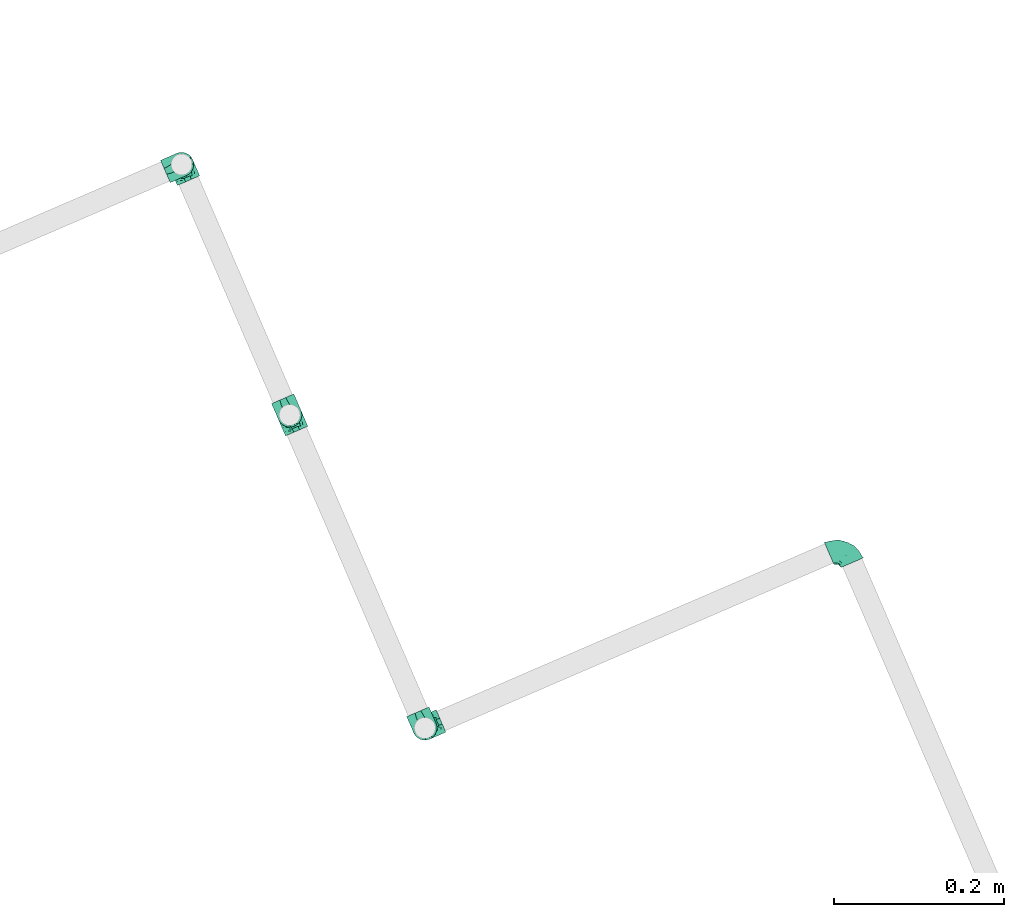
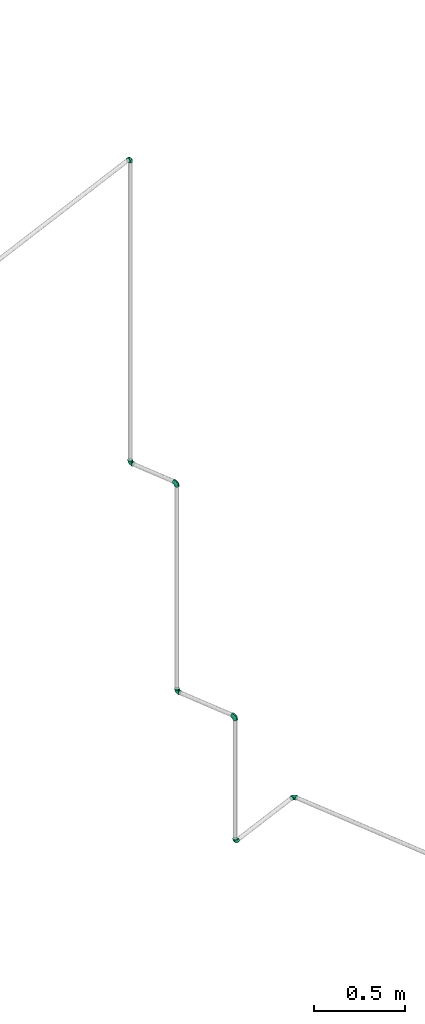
# One storey, part 19 of 26: 7 pipe fittings.
"""IFC4 building model written with IfcOpenShell, lengths in metres."""

from ifc_helpers import new_model, entity, si_unit, converted_unit, derived_unit, direction, frame, origin, place, context, subcontext, project, spatial, polygons, source, transform, mapped, material, type_object, type_shapes, element, save


model = new_model("IFC4")

# Units and contexts
model_context = context("Model", 3, precision=1e-05, world=origin(), true_north=direction((6.12323399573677e-17, 1.0)))
body_context = subcontext(model_context, "Body", "Model", "MODEL_VIEW")
ifc_project = project(units=[si_unit("LENGTHUNIT", "METRE"), si_unit("AREAUNIT", "SQUARE_METRE"), si_unit("VOLUMEUNIT", "CUBIC_METRE"), si_unit("PRESSUREUNIT", "PASCAL"), derived_unit("VOLUMETRICFLOWRATEUNIT", [(si_unit("LENGTHUNIT", "METRE", prefix="DECI"), 3), (si_unit("TIMEUNIT", "SECOND"), -1)]), converted_unit("PLANEANGLEUNIT", "DEGREE", entity("IfcPlaneAngleMeasure", 0.0174532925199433), si_unit("PLANEANGLEUNIT", "RADIAN"), dimensions=[0, 0, 0, 0, 0, 0, 0])], contexts=[model_context])

# Site, building, storey
site_placement = place(None, origin())
site = spatial("IfcSite", under=ifc_project, at=site_placement, Name="Default", CompositionType="ELEMENT")
building_placement = place(site_placement, frame((24.575451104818, -55.896759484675, 317.15), z_axis=(0.0, 0.0, 1.0), x_axis=(-0.396377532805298, 0.918087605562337, 0.0)))
building = spatial("IfcBuilding", under=site, at=building_placement, CompositionType="ELEMENT")
storey_placement = place(building_placement, origin())
storey = spatial("IfcBuildingStorey", under=building, at=storey_placement, Name="Nivel 1", CompositionType="ELEMENT", Elevation=0.0)

# Pipe fittings
ifc_material = material(Name="<Unnamed>")
pipe_fitting_type = type_object("IfcPipeFittingType", Name="M_Codo - Genérico:Norma", PredefinedType="NOTDEFINED", material=ifc_material)
shared_shape = source(origin(), body_context, "Body", "Tessellation", [
    polygons([(-0.0206374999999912, -0.0142875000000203, -1.91398743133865e-15), (-0.0206374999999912, -0.0138006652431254, 0.00369787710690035), (-0.0206374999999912, -0.0123733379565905, 0.00714374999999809), (-0.0206374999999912, -0.0101027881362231, 0.0101027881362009), (-0.0206374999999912, -0.00714375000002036, 0.0123733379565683), (-0.0206374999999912, -0.00369787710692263, 0.0138006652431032), (-0.0206374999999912, -2.03756678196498e-14, 0.0142874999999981), (-0.0206374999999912, 0.00369787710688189, 0.0138006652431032), (-0.0206374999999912, 0.00714374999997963, 0.0123733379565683), (-0.0206374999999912, 0.0101027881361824, 0.010102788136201), (-0.0206374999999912, 0.0123733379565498, 0.00714374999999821), (-0.0206374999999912, 0.0138006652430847, 0.00369787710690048), (-0.0206374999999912, 0.0142874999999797, -1.86782324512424e-15), (-0.0206374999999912, 0.0138006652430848, -0.00369787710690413), (-0.0206374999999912, 0.0123733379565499, -0.00714375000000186), (-0.0206374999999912, 0.0101027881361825, -0.0101027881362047), (-0.0206374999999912, 0.00714374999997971, -0.012373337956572), (-0.0206374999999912, 0.00369787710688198, -0.0138006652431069), (-0.0206374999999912, -2.02868388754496e-14, -0.0142875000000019), (-0.0206374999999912, -0.00369787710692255, -0.0138006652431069), (-0.0206374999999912, -0.00714375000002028, -0.0123733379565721), (-0.0206374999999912, -0.0101027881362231, -0.0101027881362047), (-0.0206374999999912, -0.0123733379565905, -0.0071437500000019), (-0.0206374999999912, -0.0138006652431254, -0.00369787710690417), (0.0142875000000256, 0.0206374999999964, -1.90764250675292e-15), (0.0138006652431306, 0.0206374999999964, -0.00369787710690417), (0.0123733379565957, 0.0206374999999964, -0.0071437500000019), (0.0101027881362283, 0.0206374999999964, -0.0101027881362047), (0.00714375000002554, 0.0206374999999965, -0.0123733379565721), (0.00369787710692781, 0.0206374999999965, -0.0138006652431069), (2.5548896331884e-14, 0.0206374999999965, -0.0142875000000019), (-0.00369787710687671, 0.0206374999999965, -0.0138006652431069), (-0.00714374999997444, 0.0206374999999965, -0.012373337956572), (-0.0101027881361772, 0.0206374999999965, -0.0101027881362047), (-0.0123733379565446, 0.0206374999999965, -0.00714375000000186), (-0.0138006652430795, 0.0206374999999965, -0.00369787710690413), (-0.0142874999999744, 0.0206374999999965, -1.78818472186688e-15), (-0.0138006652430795, 0.0206374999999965, 0.00369787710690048), (-0.0123733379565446, 0.0206374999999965, 0.00714374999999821), (-0.0101027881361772, 0.0206374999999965, 0.010102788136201), (-0.00714374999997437, 0.0206374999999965, 0.0123733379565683), (-0.00369787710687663, 0.0206374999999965, 0.0138006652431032), (2.56377252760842e-14, 0.0206374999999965, 0.0142874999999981), (0.00369787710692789, 0.0206374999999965, 0.0138006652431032), (0.00714375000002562, 0.0206374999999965, 0.0123733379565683), (0.0101027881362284, 0.0206374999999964, 0.0101027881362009), (0.0123733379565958, 0.0206374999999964, 0.00714374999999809), (0.0138006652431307, 0.0206374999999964, 0.00369787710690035), (-0.0161473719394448, 0.01614737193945, -1.77549487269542e-15), (-0.00317499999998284, -0.00960843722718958, -1.91398743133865e-15), (0.00960843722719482, 0.00317499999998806, -1.91398743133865e-15), (-0.0138157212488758, -0.0124596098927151, -1.91398743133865e-15), (0.0124596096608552, 0.0138157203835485, -1.91398743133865e-15), (0.000176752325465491, -0.000818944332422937, 0.0108840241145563), (-0.00773273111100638, 0.00773273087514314, 0.0140866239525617), (0.00793781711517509, 0.00822334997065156, 0.00966985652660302), (0.00135010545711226, 0.00899688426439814, 0.0136434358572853), (-0.00888619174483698, -0.0104628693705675, 0.00671916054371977), (-0.0129621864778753, 0.0129621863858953, 0.0104127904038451), (-0.00929774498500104, -0.00143592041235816, 0.0136628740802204), (-0.00532051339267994, 0.0141803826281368, 0.0137117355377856), (-0.0141803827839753, 0.00532051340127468, 0.0137117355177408), (0.0112946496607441, 0.0130720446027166, 0.00747085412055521), (0.00577425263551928, 0.013206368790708, 0.0125656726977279), (-0.0132433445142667, -0.00888564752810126, 0.0103991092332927), (-0.0140702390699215, 0.0159826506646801, 0.00675856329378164), (-0.0143000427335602, -0.0130452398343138, 0.00426440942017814), (0.0095400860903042, 0.00509019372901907, 0.00519492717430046), (0.00321671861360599, -0.00321671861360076, -1.91398743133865e-15), (-0.00515392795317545, -0.00641805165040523, 0.00965090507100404), (0.00222330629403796, -0.00400373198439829, 0.00598159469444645), (-0.00854677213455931, 0.0161311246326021, 0.0120130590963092), (-0.00142828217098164, 0.0152665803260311, 0.0142707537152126), (-0.0152665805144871, 0.00142828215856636, 0.014270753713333), (-0.0161311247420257, 0.00854677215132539, 0.0120130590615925), (0.0131091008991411, 0.0148489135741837, 0.00437255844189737), (0.00899826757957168, 0.0147314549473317, 0.0105988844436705), (-0.0147956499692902, -0.00588207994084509, 0.0127141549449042), (0.00233466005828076, 0.0151927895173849, 0.0139751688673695), (-0.0150725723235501, -0.0114859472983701, 0.00780933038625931), (-0.0153188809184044, -0.00233800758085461, 0.0139805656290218), (0.011034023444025, 0.00849536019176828, -1.91398743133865e-15), (-0.0113819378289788, 0.0168959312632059, 0.00951940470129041), (-0.0168959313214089, 0.0113819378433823, 0.00951940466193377), (-0.0170650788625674, 0.0134736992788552, 0.00667503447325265), (-0.0162112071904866, 0.0154334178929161, 0.00367932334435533), (-0.00849536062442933, -0.0110340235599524, -1.91398743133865e-15), (-0.00647811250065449, -0.0108815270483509, 0.00323735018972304), (-0.00100845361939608, -0.00772137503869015, 0.00350069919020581), (-0.00886885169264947, 0.0115328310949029, 0.0130758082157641), (-0.00347635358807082, 0.010181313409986, 0.0142772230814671), (-0.00486327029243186, 0.00380489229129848, 0.0140791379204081), (-0.0101813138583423, 0.00347635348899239, 0.0142772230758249), (0.00574400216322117, 0.00158139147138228, 0.00789717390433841), (0.00646368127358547, -0.00034497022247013, 0.00426218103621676), (-0.01133973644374, 0.00817371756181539, 0.0133509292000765), (-0.0119462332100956, 0.0108177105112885, 0.01214592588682), (-0.0104397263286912, 0.0136564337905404, 0.0116442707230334), (0.00426857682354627, 0.00406076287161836, 0.0108628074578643), (0.000366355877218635, 0.00349920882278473, 0.0127379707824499), (-0.0039339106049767, -0.000686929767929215, 0.0127486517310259), (-0.00794317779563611, -0.00460237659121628, 0.0120890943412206), (0.0117560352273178, 0.00970031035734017, 0.00452322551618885), (0.0107595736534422, 0.00586367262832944, 0.00252945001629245), (0.0086810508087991, 0.00209392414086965, 0.00257710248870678), (0.00641257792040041, -2.08593068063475e-05, -1.91398743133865e-15), (-0.00237913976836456, -0.00707429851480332, 0.00683135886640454), (-0.000140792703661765, -0.00388038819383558, 0.00871805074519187), (0.00277830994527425, -0.000643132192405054, 0.00911324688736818), (-0.0054208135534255, 0.0206374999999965, 0.0130870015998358), (-0.00418568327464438, 0.0173312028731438, 0.0137571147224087), (-0.0206374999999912, 0.00542081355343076, 0.0130870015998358), (-0.0173312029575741, 0.00418568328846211, 0.0137571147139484), (0.00987593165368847, 0.00850514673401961, 0.00743684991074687), (0.00793102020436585, 0.00512352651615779, 0.00794965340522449), (-0.0088104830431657, -0.00877836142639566, 0.00903634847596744), (0.000239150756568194, 0.0122734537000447, 0.0141669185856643), (-0.0143001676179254, 0.017568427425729, 0.00439068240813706), (-0.0103785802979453, -0.0119235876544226, 0.00467362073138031), (2.08593068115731e-05, -0.00641257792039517, -1.91398743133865e-15), (0.00279281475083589, -0.00483309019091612, 0.00299181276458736), (-0.00194016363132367, 0.00726127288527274, 0.0140925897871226), (0.00572154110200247, 0.0085814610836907, 0.0115951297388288), (-0.003650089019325, -0.00355714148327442, 0.0111567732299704), (-0.00193934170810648, 0.00193934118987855, -0.0130547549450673), (-0.0105392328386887, 0.0105392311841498, -0.0127956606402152), (0.00743074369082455, 0.00658692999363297, -0.00940990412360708), (-0.00658692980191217, -0.00743074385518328, -0.00940990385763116), (-0.010680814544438, 0.00217692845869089, -0.0142835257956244), (-0.00217692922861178, 0.0106808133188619, -0.0142835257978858), (-0.0147948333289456, 0.0147948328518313, -0.00714135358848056), (0.00568780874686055, 0.0124319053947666, -0.0124904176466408), (0.0111958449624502, 0.0123663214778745, -0.00734851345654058), (-0.0124319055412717, -0.0056878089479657, -0.0124904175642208), (-0.0123663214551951, -0.0111958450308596, -0.00734851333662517), (-0.0148108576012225, 0.00522571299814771, -0.0136681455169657), (-0.00522571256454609, 0.014810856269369, -0.0136681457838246), (-0.0115374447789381, 0.0162108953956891, -0.00966984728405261), (-0.0162108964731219, 0.0115374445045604, -0.00966984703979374), (0.00898405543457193, 0.0144717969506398, -0.0105644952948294), (0.0023205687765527, 0.0148125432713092, -0.0139585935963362), (0.00171503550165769, 0.00789920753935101, -0.0133501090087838), (0.0130906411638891, 0.0146814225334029, -0.00433964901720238), (0.0107681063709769, 0.00675874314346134, -0.00406143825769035), (0.00684414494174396, -4.76310165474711e-06, -0.00394110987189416), (0.00017428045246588, -0.00614059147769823, -0.00527756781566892), (-0.01447179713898, -0.00898405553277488, -0.0105644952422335), (-0.0148125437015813, -0.00232056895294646, -0.0139585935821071), (-0.00789920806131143, -0.00171503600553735, -0.0133501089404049), (-0.0146814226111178, -0.0130906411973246, -0.00433964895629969), (-0.00675874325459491, -0.0107681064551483, -0.00406143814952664), (-0.00852331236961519, 0.0163139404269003, -0.0119868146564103), (-0.0163139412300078, 0.00852331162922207, -0.0119868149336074), (0.0030859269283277, 0.00336815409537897, -0.0113287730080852), (-0.00145328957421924, -0.00264997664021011, -0.0106409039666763), (0.00445745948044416, 3.67635219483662e-05, -0.00801127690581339), (-0.0160399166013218, 0.00140287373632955, -0.0142615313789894), (-0.00140287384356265, 0.0160399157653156, -0.0142615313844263), (-0.00941182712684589, 0.00664976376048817, -0.0140296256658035), (-0.00508542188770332, 0.00508542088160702, -0.014222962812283), (-0.00699597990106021, 0.0105280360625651, -0.0138112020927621), (-0.0178443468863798, 0.0133830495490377, -0.00621711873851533), (-0.0161315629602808, 0.0154961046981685, -0.00369654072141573), (-0.0133830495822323, 0.0178443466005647, -0.00621711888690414), (-0.014368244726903, 0.0177468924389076, -0.00393847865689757), (-0.00678207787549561, -0.00466398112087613, -0.0116935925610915), (-0.00405092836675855, -0.00160148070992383, -0.01239521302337), (0.00586952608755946, 0.0171604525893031, -0.0129214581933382), (0.0115473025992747, 0.0171053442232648, -0.00814200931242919), (-0.0171604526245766, -0.00586952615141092, -0.0129214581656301), (-0.0171053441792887, -0.0115473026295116, -0.00814200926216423), (-0.0135396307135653, 0.0135396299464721, -0.00958025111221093), (-0.0110613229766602, 0.0133918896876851, -0.0113873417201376), (-0.013526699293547, 0.0108398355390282, -0.0114607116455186), (0.0120035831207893, 0.0108741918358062, -0.00486842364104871), (0.00964941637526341, 0.00734879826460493, -0.00703328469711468), (0.00737425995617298, 0.0033840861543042, -0.00733418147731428), (0.00917153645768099, 0.00296427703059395, -0.0027679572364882), (0.00367169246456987, -0.00389665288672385, -0.00330356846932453), (-0.00170307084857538, -0.00837123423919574, -0.00283309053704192), (-0.00377971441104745, -0.00866361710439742, -0.00554655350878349), (-0.00788333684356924, -0.0100707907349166, -0.00670951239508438), (0.00320463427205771, -0.00299787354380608, -0.00606891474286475), (-0.000344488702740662, -0.00456946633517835, -0.00816734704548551), (-0.0102215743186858, -0.0123932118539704, -0.00286852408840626), (-0.0129951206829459, 0.00787480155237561, -0.0130742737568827), (0.00446733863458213, 0.00775313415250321, -0.0121106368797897), (-0.00510169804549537, 0.00845793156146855, -0.0142593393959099)], [[[18, 19, 20, 21, 22, 23, 24, 1, 2, 3, 4, 5, 6, 7, 8, 112, 9, 10, 11, 12, 13, 14, 15, 16, 17]], [[29, 30, 31, 32, 33, 34, 35, 36, 37, 38, 39, 40, 41, 110, 42, 43, 44, 45, 46, 47, 48, 25, 26, 27, 28]], [[43, 73, 79]], [[119, 87, 88]], [[52, 67, 2]], [[76, 47, 63]], [[80, 4, 3]], [[2, 67, 3]], [[70, 107, 108]], [[4, 80, 65]], [[65, 78, 5]], [[2, 1, 52]], [[62, 93, 96]], [[9, 112, 8, 113]], [[66, 83, 39]], [[81, 7, 6]], [[99, 54, 109]], [[124, 102, 70]], [[10, 84, 11]], [[41, 40, 72]], [[84, 59, 85]], [[9, 75, 10]], [[61, 72, 90]], [[86, 13, 12]], [[91, 55, 92]], [[5, 4, 65]], [[77, 114, 63]], [[45, 44, 64]], [[64, 44, 79]], [[113, 75, 9]], [[43, 42, 73]], [[103, 76, 63]], [[25, 48, 53]], [[42, 111, 73]], [[63, 46, 77]], [[71, 89, 121]], [[63, 47, 46]], [[62, 74, 93]], [[54, 99, 100]], [[64, 123, 77]], [[85, 86, 12]], [[61, 91, 73]], [[86, 118, 49]], [[57, 100, 123]], [[59, 83, 66]], [[8, 7, 74]], [[39, 83, 40]], [[5, 78, 6]], [[39, 38, 118]], [[49, 118, 37]], [[111, 42, 110, 41]], [[72, 111, 41]], [[65, 80, 116]], [[84, 85, 11]], [[45, 77, 46]], [[87, 50, 88]], [[47, 76, 48]], [[67, 119, 80]], [[109, 54, 108]], [[51, 104, 105]], [[115, 68, 114]], [[107, 88, 89]], [[101, 102, 124]], [[88, 107, 58]], [[94, 95, 68]], [[83, 72, 40]], [[61, 90, 55]], [[91, 61, 55]], [[43, 79, 44]], [[81, 74, 7]], [[60, 92, 93]], [[96, 55, 90]], [[75, 97, 84]], [[103, 104, 82]], [[53, 48, 76]], [[64, 77, 45]], [[77, 56, 114]], [[65, 116, 102]], [[81, 78, 60]], [[73, 117, 79]], [[64, 79, 57]], [[67, 80, 3]], [[80, 58, 116]], [[78, 81, 6]], [[74, 81, 60]], [[114, 103, 63]], [[82, 53, 76]], [[83, 59, 98]], [[75, 84, 10]], [[85, 59, 66]], [[86, 85, 66]], [[12, 11, 85]], [[118, 86, 66]], [[86, 49, 13]], [[67, 52, 87]], [[89, 88, 50]], [[119, 88, 58]], [[89, 50, 120]], [[89, 71, 107]], [[59, 97, 98]], [[97, 75, 96]], [[93, 55, 96]], [[91, 122, 117]], [[100, 101, 54]], [[122, 91, 92]], [[60, 93, 74]], [[92, 55, 93]], [[115, 99, 94]], [[95, 94, 71]], [[121, 95, 71]], [[95, 106, 105]], [[97, 96, 90]], [[75, 62, 96]], [[98, 90, 72]], [[97, 59, 84]], [[90, 98, 97]], [[83, 98, 72]], [[123, 99, 56]], [[99, 123, 100]], [[122, 100, 57]], [[101, 92, 60]], [[92, 101, 100]], [[101, 60, 102]], [[60, 78, 102]], [[65, 102, 78]], [[104, 103, 68]], [[82, 76, 103]], [[105, 68, 95]], [[82, 104, 51]], [[68, 105, 104]], [[108, 107, 71]], [[106, 95, 69]], [[106, 51, 105]], [[107, 70, 116]], [[109, 71, 94]], [[108, 54, 124]], [[71, 109, 108]], [[99, 109, 94]], [[111, 72, 61]], [[61, 73, 111]], [[113, 74, 62]], [[74, 113, 8]], [[113, 62, 75]], [[115, 114, 56]], [[103, 114, 68]], [[99, 115, 56]], [[68, 115, 94]], [[107, 116, 58]], [[102, 116, 70]], [[91, 117, 73]], [[57, 79, 117]], [[39, 118, 66]], [[37, 118, 38]], [[80, 119, 58]], [[87, 119, 67]], [[120, 121, 89]], [[121, 120, 69]], [[95, 121, 69]], [[100, 122, 92]], [[117, 122, 57]], [[77, 123, 56]], [[57, 123, 64]], [[108, 124, 70]], [[101, 124, 54]], [[166, 134, 149]], [[185, 52, 150]], [[129, 157, 136]], [[157, 19, 18]], [[163, 131, 162]], [[178, 51, 106]], [[162, 139, 15]], [[23, 171, 150]], [[16, 15, 139]], [[156, 183, 184]], [[129, 136, 159]], [[17, 16, 153]], [[52, 1, 24]], [[153, 16, 139]], [[148, 20, 19]], [[22, 171, 23]], [[135, 147, 128]], [[32, 137, 33]], [[21, 147, 22]], [[170, 21, 20]], [[147, 21, 170]], [[35, 34, 138]], [[30, 141, 31]], [[134, 148, 149]], [[13, 49, 163]], [[34, 33, 152]], [[36, 165, 37]], [[23, 150, 24]], [[159, 160, 129]], [[162, 15, 14]], [[152, 138, 34]], [[28, 140, 29]], [[32, 31, 158]], [[26, 25, 53]], [[32, 158, 137]], [[131, 164, 138]], [[142, 154, 125]], [[168, 141, 30]], [[134, 170, 148]], [[169, 28, 27]], [[142, 130, 141]], [[168, 140, 132]], [[136, 18, 17]], [[168, 30, 29]], [[169, 143, 133]], [[154, 142, 187]], [[133, 143, 175]], [[87, 151, 50]], [[175, 82, 144]], [[132, 140, 127]], [[36, 35, 164]], [[143, 27, 26]], [[130, 160, 188]], [[36, 164, 165]], [[173, 152, 126]], [[136, 186, 159]], [[174, 172, 173]], [[172, 139, 131]], [[153, 186, 136]], [[169, 140, 28]], [[140, 133, 176]], [[142, 141, 132]], [[158, 141, 130]], [[187, 127, 154]], [[142, 125, 160]], [[26, 53, 143]], [[143, 53, 82]], [[82, 51, 144]], [[144, 51, 178]], [[133, 175, 176]], [[185, 135, 151]], [[145, 106, 179]], [[156, 127, 177]], [[180, 179, 120]], [[155, 125, 154]], [[128, 147, 134]], [[171, 147, 135]], [[157, 148, 19]], [[129, 160, 149]], [[129, 149, 148]], [[167, 166, 149]], [[87, 185, 151]], [[52, 24, 150]], [[146, 180, 181]], [[151, 182, 181]], [[50, 151, 180]], [[33, 137, 152]], [[152, 137, 161]], [[139, 172, 174]], [[136, 17, 153]], [[176, 177, 127]], [[184, 128, 155]], [[154, 127, 156]], [[166, 128, 134]], [[145, 179, 183]], [[155, 154, 156]], [[136, 157, 18]], [[148, 157, 129]], [[141, 158, 31]], [[137, 158, 130]], [[161, 159, 126]], [[161, 188, 159]], [[142, 160, 130]], [[149, 160, 125]], [[152, 161, 126]], [[188, 137, 130]], [[14, 13, 163]], [[139, 162, 131]], [[14, 163, 162]], [[49, 37, 165]], [[138, 164, 35]], [[165, 131, 163]], [[131, 165, 164]], [[165, 163, 49]], [[167, 149, 125]], [[155, 128, 166]], [[125, 155, 167]], [[155, 166, 167]], [[140, 168, 29]], [[141, 168, 132]], [[143, 169, 27]], [[140, 169, 133]], [[148, 170, 20]], [[147, 170, 134]], [[147, 171, 22]], [[150, 171, 135]], [[131, 138, 172]], [[173, 172, 138]], [[152, 173, 138]], [[173, 126, 174]], [[186, 174, 126]], [[153, 139, 174]], [[82, 175, 143]], [[176, 175, 144]], [[144, 178, 177]], [[140, 176, 127]], [[144, 177, 176]], [[145, 156, 177]], [[178, 106, 145]], [[177, 178, 145]], [[50, 180, 120]], [[179, 106, 69, 120]], [[183, 179, 146]], [[146, 179, 180]], [[181, 180, 151]], [[182, 151, 135]], [[184, 181, 128]], [[135, 128, 182]], [[128, 181, 182]], [[184, 183, 146]], [[145, 183, 156]], [[184, 146, 181]], [[156, 184, 155]], [[52, 185, 87]], [[135, 185, 150]], [[174, 186, 153]], [[159, 186, 126]], [[142, 132, 187]], [[127, 187, 132]], [[159, 188, 160]], [[137, 188, 161]]], closed=True),
])
type_shapes(pipe_fitting_type, [shared_shape])
pipe_fitting_placement = place(storey_placement, frame((-6.29440887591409, 50.473264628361, -0.439999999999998)))
element("IfcPipeFitting", 1, at=pipe_fitting_placement, inside=storey, type_object=pipe_fitting_type, material=ifc_material, Name="M_Codo - Genérico:Norma", ObjectType="M_Codo - Genérico:Norma", PredefinedType="NOTDEFINED", context=body_context, shape_type="MappedRepresentation", body=[
    mapped(shared_shape, transform((0.0, 0.0, 0.0), scale=1.0)),
])
for number, where, z_axis, x_axis in (
    (2, (-6.29440887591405, 51.0104448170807, -0.439999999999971), (1.0, 0.0, 0.0), (0.0, 1.0, 0.0)),
    (3, (-6.29440887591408, 51.0104448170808, 0.399999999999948), (0.0, 1.0, 0.0), (0.0, 0.0, 1.0)),
    (4, (-5.89440887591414, 51.0104448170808, 0.400000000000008), (0.0, -1.0, 0.0), (1.0, 0.0, 0.0)),
    (5, (-5.89440887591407, 51.0104448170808, 1.79999999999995), (0.0, 1.0, 0.0), (0.0, 0.0, 1.0)),
    (6, (-5.57440887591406, 51.0104448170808, 1.80000000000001), (0.0, -1.0, 0.0), (1.0, 0.0, 0.0)),
    (7, (-5.5744088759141, 51.0104448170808, 3.84206723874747), (-1.0, 0.0, 0.0), (0.0, 0.0, 1.0)),
):
    element("IfcPipeFitting", number, at=place(storey_placement, frame(where, z_axis=z_axis, x_axis=x_axis)), inside=storey, type_object=pipe_fitting_type, material=ifc_material, Name="M_Codo - Genérico:Norma", ObjectType="M_Codo - Genérico:Norma", PredefinedType="NOTDEFINED", context=body_context, shape_type="MappedRepresentation", body=[
        mapped(shared_shape, transform((0.0, 0.0, 0.0), scale=1.0)),
    ])

save(model, "model.ifc")
